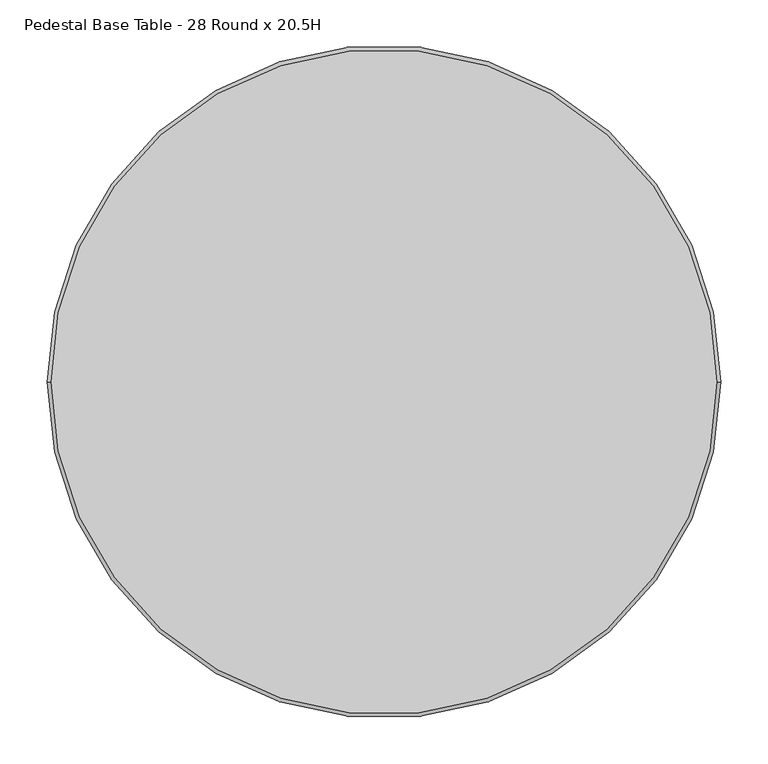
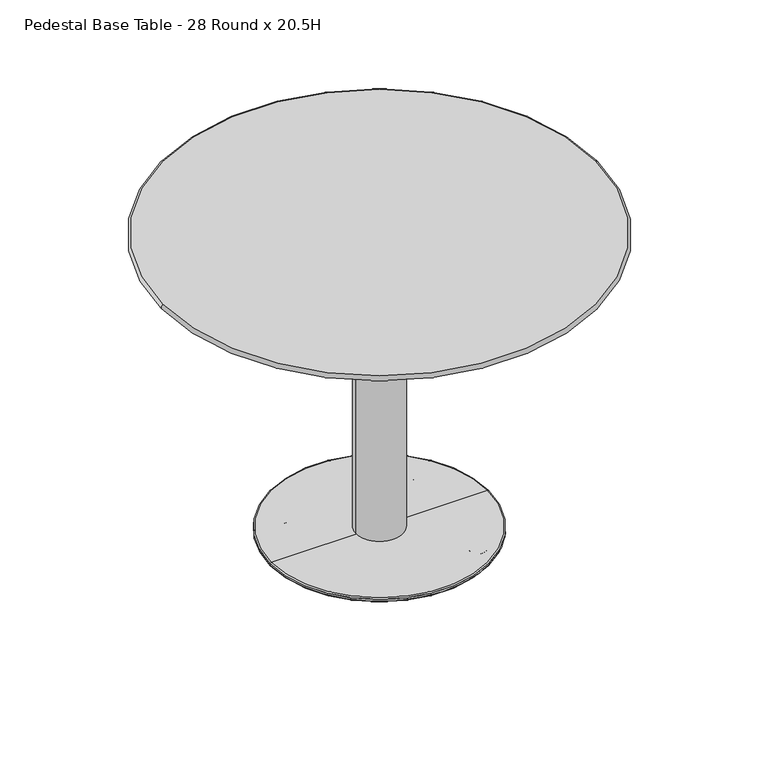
"""IFC4 building model written with IfcOpenShell, lengths in millimetres: furniture geometry, Integra - Coastal Collection - Coastal Metal Tables - Freestanding Table : Pedestal Base Table - 28 Round x 20.5H."""

from ifc_helpers import new_model, si_unit, point, frame, origin, origin_2d, place, context, project, spatial, circle_curve, ellipse_curve, trimmed, segment, composite_curve, outline, extrude, source, transform, mapped, element, save
from ifc_brep_helpers import plane_surface, cylinder_surface, revolved_surface, advanced_brep


def pedestal_base_table_28_round_x_20_5h_dd61f7c6(model_context):
    return source(origin(), model_context, "Body", "SolidModel", [
        advanced_brep(
        [(177.8, 0.0, 14.2991915), (-177.8, 0.0, 14.2991915), (-176.2125, 0.0, 15.8866915), (176.2125, 0.0, 15.8866915), (177.8, 0.0, 11.1241915), (-177.8, 0.0, 11.1241915), (176.2125, 0.0, 9.5366915), (-176.2125, 0.0, 9.5366915), (0.0, 0.0, 9.5366915), (0.0, 0.0, 15.8866915)],
        [
            (0, 1, circle_curve(frame((0.0, 0.0, 14.2991915), z_axis=(0.0, 0.0, 1.0), x_axis=(-1.0, 0.0, 0.0)), 177.8)),
            (1, 2, circle_curve(frame((-176.2125, 0.0, 14.2991915), z_axis=(0.0, 1.0, 0.0), x_axis=(1.0, 0.0, 0.0)), 1.5875)),
            (2, 3, circle_curve(frame((0.0, 0.0, 15.8866915), z_axis=(0.0, 0.0, -1.0), x_axis=(-1.0, 0.0, 0.0)), 176.2125)),
            (3, 0, circle_curve(frame((176.2125, 0.0, 14.2991915), z_axis=(0.0, 1.0, 0.0), x_axis=(-1.0, 0.0, 0.0)), 1.5875)),
            (1, 0, circle_curve(frame((0.0, 0.0, 14.2991915), z_axis=(0.0, 0.0, 1.0), x_axis=(-1.0, 0.0, 0.0)), 177.8)),
            (3, 2, circle_curve(frame((0.0, 0.0, 15.8866915), z_axis=(0.0, 0.0, -1.0), x_axis=(-1.0, 0.0, 0.0)), 176.2125)),
            (4, 5, circle_curve(frame((0.0, 0.0, 11.1241915), z_axis=(0.0, 0.0, 1.0), x_axis=(-1.0, 0.0, 0.0)), 177.8)),
            (5, 1),
            (0, 4),
            (5, 4, circle_curve(frame((0.0, 0.0, 11.1241915), z_axis=(0.0, 0.0, 1.0), x_axis=(-1.0, 0.0, 0.0)), 177.8)),
            (6, 7, circle_curve(frame((0.0, 0.0, 9.5366915), z_axis=(0.0, 0.0, 1.0), x_axis=(-1.0, 0.0, 0.0)), 176.2125)),
            (7, 5, circle_curve(frame((-176.2125, 0.0, 11.1241915), z_axis=(0.0, 1.0, 0.0), x_axis=(1.0, 0.0, 0.0)), 1.5875)),
            (4, 6, circle_curve(frame((176.2125, 0.0, 11.1241915), z_axis=(0.0, 1.0, 0.0), x_axis=(-1.0, 0.0, 0.0)), 1.5875)),
            (7, 6, circle_curve(frame((0.0, 0.0, 9.5366915), z_axis=(0.0, 0.0, 1.0), x_axis=(-1.0, 0.0, 0.0)), 176.2125)),
            (8, 7),
            (6, 8),
            (2, 9),
            (9, 3),
        ],
        [
            revolved_surface(trimmed(ellipse_curve(frame((-176.2125, 0.0, 14.2991915), z_axis=(0.0, -1.0, 0.0), x_axis=(1.0, 0.0, 0.0)), 1.5875, 1.5875), [point((-176.2125, 0.0, 15.8866915))], [point((-177.8, 0.0, 14.2991915))], True, "CARTESIAN"), (0.0, 0.0, 15.8866915), (0.0, 0.0, -1.0)),
            cylinder_surface(frame((0.0, 0.0, 15.8866915), z_axis=(0.0, 0.0, -1.0), x_axis=(-1.0, 0.0, 0.0)), 177.8),
            revolved_surface(trimmed(ellipse_curve(frame((-176.2125, 0.0, 11.1241915), z_axis=(0.0, -1.0, 0.0), x_axis=(1.0, 0.0, 0.0)), 1.5875, 1.5875), [point((-177.8, 0.0, 11.1241915))], [point((-176.2125, 0.0, 9.5366915))], True, "CARTESIAN"), (0.0, 0.0, 15.8866915), (0.0, 0.0, -1.0)),
            plane_surface(frame((0.0, 0.0, 9.5366915), z_axis=(0.0, 0.0, -1.0), x_axis=(-1.0, 0.0, 0.0))),
            plane_surface(frame((0.0, 0.0, 15.8866915), z_axis=(0.0, 0.0, 1.0), x_axis=(-1.0, 0.0, 0.0))),
        ],
        [
            (0, [[1, 2, 3, 4]]),
            (0, [[5, -4, 6, -2]]),
            (1, [[7, 8, -1, 9]]),
            (1, [[10, -9, -5, -8]]),
            (2, [[11, 12, -7, 13]]),
            (2, [[14, -13, -10, -12]]),
            (3, [[15, -11, 16]]),
            (3, [[-16, -14, -15]]),
            (4, [[-3, 17, 18]]),
            (4, [[-6, -18, -17]]),
        ],
    ),
        extrude(outline(composite_curve([segment(trimmed(circle_curve(origin_2d(), 38.1), [point((-38.1, 0.0))], [point((38.1, 0.0))], False, "CARTESIAN"), True, "CONTINUOUS"), segment(trimmed(circle_curve(origin_2d(), 38.1), [point((38.1, 0.0))], [point((-38.1, 0.0))], False, "CARTESIAN"), True, "CONTINUOUS")], self_intersect=False)), frame((0.0, 0.0, 15.8866915), z_axis=(0.0, 0.0, 1.0), x_axis=(1.0, 0.0, 0.0)), (0.0, 0.0, 1.0), 485.7633025),
        advanced_brep(
        [(-330.184015, 0.0, 507.9999939), (330.184015, 0.0, 507.9999939), (351.6380192, 0.0, 520.7), (-351.6380192, 0.0, 520.7), (353.3187402, 0.0, 513.1501969), (-353.3187402, 0.0, 513.1501969)],
        [
            (0, 1, circle_curve(frame((0.0, 0.0, 507.9999939), z_axis=(0.0, 0.0, -1.0), x_axis=(1.0, 0.0, 0.0)), 330.184015)),
            (1, 0, circle_curve(frame((0.0, 0.0, 507.9999939), z_axis=(0.0, 0.0, -1.0), x_axis=(-1.0, 0.0, 0.0)), 330.184015)),
            (2, 3, circle_curve(frame((0.0, 0.0, 520.7), z_axis=(0.0, 0.0, 1.0), x_axis=(1.0, 0.0, 0.0)), 351.6380192)),
            (3, 2, circle_curve(frame((0.0, 0.0, 520.7), z_axis=(0.0, 0.0, 1.0), x_axis=(-1.0, 0.0, 0.0)), 351.6380192)),
            (2, 4, circle_curve(frame((351.6380192, 0.0, 516.7380192), z_axis=(0.0, 1.0, 0.0), x_axis=(-1.0, 0.0, 0.0)), 3.9619808)),
            (4, 5, circle_curve(frame((0.0, 0.0, 513.1501969), z_axis=(0.0, 0.0, 1.0), x_axis=(1.0, 0.0, 0.0)), 353.3187402)),
            (5, 3, circle_curve(frame((-351.6380192, 0.0, 516.7380192), z_axis=(0.0, 1.0, 0.0), x_axis=(1.0, 0.0, 0.0)), 3.9619808)),
            (4, 1, circle_curve(frame((330.184015, 0.0, 562.5357186), z_axis=(0.0, 1.0, 0.0), x_axis=(-1.0, 0.0, 0.0)), 54.5357246)),
            (0, 5, circle_curve(frame((-330.184015, 0.0, 562.5357186), z_axis=(0.0, 1.0, 0.0), x_axis=(1.0, 0.0, 0.0)), 54.5357246)),
            (5, 4, circle_curve(frame((0.0, 0.0, 513.1501969), z_axis=(0.0, 0.0, 1.0), x_axis=(-1.0, 0.0, 0.0)), 353.3187402)),
        ],
        [
            plane_surface(frame((-25.4, 0.0, 507.9999939), z_axis=(0.0, 0.0, -1.0), x_axis=(0.0, 1.0, 0.0))),
            plane_surface(frame((-25.4, 0.0, 520.7), z_axis=(0.0, 0.0, 1.0), x_axis=(0.0, -1.0, 0.0))),
            revolved_surface(trimmed(ellipse_curve(frame((351.6380192, 0.0, 516.7380192), z_axis=(0.0, -1.0, 0.0), x_axis=(-1.0, 0.0, 0.0)), 3.9619808, 3.9619808), [point((353.3187402, 0.0, 513.1501969))], [point((351.6380192, 0.0, 520.7))], True, "CARTESIAN"), (0.0, 0.0, 520.7), (0.0, 0.0, 1.0)),
            revolved_surface(trimmed(ellipse_curve(frame((330.184015, 0.0, 562.5357186), z_axis=(0.0, -1.0, 0.0), x_axis=(-1.0, 0.0, 0.0)), 54.5357246, 54.5357246), [point((330.184015, 0.0, 507.9999939))], [point((353.3187402, 0.0, 513.1501969))], True, "CARTESIAN"), (0.0, 0.0, 520.7), (0.0, 0.0, 1.0)),
            revolved_surface(trimmed(ellipse_curve(frame((-351.6380192, 0.0, 516.7380192), z_axis=(0.0, 1.0, 0.0), x_axis=(1.0, 0.0, 0.0)), 3.9619808, 3.9619808), [point((-353.3187402, 0.0, 513.1501969))], [point((-351.6380192, 0.0, 520.7))], True, "CARTESIAN"), (0.0, 0.0, 520.7), (0.0, 0.0, 1.0)),
            revolved_surface(trimmed(ellipse_curve(frame((-330.184015, 0.0, 562.5357186), z_axis=(0.0, 1.0, 0.0), x_axis=(1.0, 0.0, 0.0)), 54.5357246, 54.5357246), [point((-330.184015, 0.0, 507.9999939))], [point((-353.3187402, 0.0, 513.1501969))], True, "CARTESIAN"), (0.0, 0.0, 520.7), (0.0, 0.0, 1.0)),
        ],
        [
            (0, [[1, 2]]),
            (1, [[3, 4]]),
            (2, [[-3, 5, 6, 7]]),
            (3, [[-6, 8, -1, 9]]),
            (4, [[-5, -4, -7, 10]]),
            (5, [[-8, -10, -9, -2]]),
        ],
    ),
        extrude(outline(composite_curve([segment(trimmed(circle_curve(origin_2d(), 330.2), [point((-330.2, 0.0))], [point((330.2, 0.0))], False, "CARTESIAN"), True, "CONTINUOUS"), segment(trimmed(circle_curve(origin_2d(), 330.2), [point((330.2, 0.0))], [point((-330.2, 0.0))], False, "CARTESIAN"), True, "CONTINUOUS")], self_intersect=False)), frame((0.0, 0.0, 501.6499939), z_axis=(0.0, 0.0, 1.0), x_axis=(1.0, 0.0, 0.0)), (0.0, 0.0, 1.0), 6.35),
        advanced_brep(
        [(-117.2443939, 101.6, 9.5239742), (-85.9556061, 101.6, 9.5239742), (-101.6, 101.6, 9.5239742), (-107.7193939, 101.6, -0.0010258), (-95.4806061, 101.6, -0.0010258), (-101.6, 101.6, -0.0010258)],
        [
            (0, 1, circle_curve(frame((-101.6, 101.6, 9.5239742), z_axis=(0.0, 0.0, 1.0), x_axis=(1.0, 0.0, 0.0)), 15.6443939)),
            (1, 2),
            (2, 0),
            (1, 0, circle_curve(frame((-101.6, 101.6, 9.5239742), z_axis=(0.0, 0.0, 1.0), x_axis=(1.0, 0.0, 0.0)), 15.6443939)),
            (3, 4, circle_curve(frame((-101.6, 101.6, -0.0010258), z_axis=(0.0, 0.0, 1.0), x_axis=(1.0, 0.0, 0.0)), 6.1193939)),
            (4, 1, circle_curve(frame((-95.4806061, 101.6, 9.5239742), z_axis=(0.0, -1.0, 0.0), x_axis=(1.0, 0.0, 0.0)), 9.525)),
            (0, 3, circle_curve(frame((-107.7193939, 101.6, 9.5239742), z_axis=(0.0, -1.0, 0.0), x_axis=(-1.0, 0.0, 0.0)), 9.525)),
            (4, 3, circle_curve(frame((-101.6, 101.6, -0.0010258), z_axis=(0.0, 0.0, 1.0), x_axis=(1.0, 0.0, 0.0)), 6.1193939)),
            (5, 4),
            (3, 5),
        ],
        [
            plane_surface(frame((-101.6, 101.6, 9.5239742), z_axis=(0.0, 0.0, 1.0), x_axis=(1.0, 0.0, 0.0))),
            revolved_surface(trimmed(ellipse_curve(frame((-95.4806061, 101.6, 9.5239742), z_axis=(0.0, 1.0, 0.0), x_axis=(1.0, 0.0, 0.0)), 9.525, 9.525), [point((-85.9556061, 101.6, 9.5239742))], [point((-95.4806061, 101.6, -0.0010258))], True, "CARTESIAN"), (-101.6, 101.6, -0.0010258), (0.0, 0.0, -1.0)),
            plane_surface(frame((-101.6, 101.6, -0.0010258), z_axis=(0.0, 0.0, -1.0), x_axis=(1.0, 0.0, 0.0))),
        ],
        [
            (0, [[1, 2, 3]]),
            (0, [[4, -3, -2]]),
            (1, [[5, 6, -1, 7]]),
            (1, [[8, -7, -4, -6]]),
            (2, [[9, -5, 10]]),
            (2, [[-10, -8, -9]]),
        ],
    ),
        advanced_brep(
        [(-101.6, -101.6, 9.5239742), (-85.9556061, -101.6, 9.5239742), (-117.2443939, -101.6, 9.5239742), (-95.4806061, -101.6, -0.0010258), (-107.7193939, -101.6, -0.0010258), (-101.6, -101.6, -0.0010258)],
        [
            (0, 1),
            (1, 2, circle_curve(frame((-101.6, -101.6, 9.5239742), z_axis=(0.0, 0.0, 1.0), x_axis=(1.0, 0.0, 0.0)), 15.6443939)),
            (2, 0),
            (2, 1, circle_curve(frame((-101.6, -101.6, 9.5239742), z_axis=(0.0, 0.0, 1.0), x_axis=(1.0, 0.0, 0.0)), 15.6443939)),
            (1, 3, circle_curve(frame((-95.4806061, -101.6, 9.5239742), z_axis=(0.0, 1.0, 0.0), x_axis=(1.0, 0.0, 0.0)), 9.525)),
            (3, 4, circle_curve(frame((-101.6, -101.6, -0.0010258), z_axis=(0.0, 0.0, 1.0), x_axis=(1.0, 0.0, 0.0)), 6.1193939)),
            (4, 2, circle_curve(frame((-107.7193939, -101.6, 9.5239742), z_axis=(0.0, 1.0, 0.0), x_axis=(-1.0, 0.0, 0.0)), 9.525)),
            (4, 3, circle_curve(frame((-101.6, -101.6, -0.0010258), z_axis=(0.0, 0.0, 1.0), x_axis=(1.0, 0.0, 0.0)), 6.1193939)),
            (3, 5),
            (5, 4),
        ],
        [
            plane_surface(frame((-101.6, -101.6, 9.5239742), z_axis=(0.0, 0.0, 1.0), x_axis=(1.0, 0.0, 0.0))),
            revolved_surface(trimmed(ellipse_curve(frame((-95.4806061, -101.6, 9.5239742), z_axis=(0.0, -1.0, 0.0), x_axis=(1.0, 0.0, 0.0)), 9.525, 9.525), [point((-95.4806061, -101.6, -0.0010258))], [point((-85.9556061, -101.6, 9.5239742))], True, "CARTESIAN"), (-101.6, -101.6, -0.0010258), (0.0, 0.0, 1.0)),
            plane_surface(frame((-101.6, -101.6, -0.0010258), z_axis=(0.0, 0.0, -1.0), x_axis=(1.0, 0.0, 0.0))),
        ],
        [
            (0, [[1, 2, 3]]),
            (0, [[-3, 4, -1]]),
            (1, [[-2, 5, 6, 7]]),
            (1, [[-4, -7, 8, -5]]),
            (2, [[-6, 9, 10]]),
            (2, [[-8, -10, -9]]),
        ],
    ),
        advanced_brep(
        [(101.6, 101.6, 9.5239742), (85.9556061, 101.6, 9.5239742), (117.2443939, 101.6, 9.5239742), (95.4806061, 101.6, -0.0010258), (107.7193939, 101.6, -0.0010258), (101.6, 101.6, -0.0010258)],
        [
            (0, 1),
            (1, 2, circle_curve(frame((101.6, 101.6, 9.5239742), z_axis=(0.0, 0.0, 1.0), x_axis=(-1.0, 0.0, 0.0)), 15.6443939)),
            (2, 0),
            (2, 1, circle_curve(frame((101.6, 101.6, 9.5239742), z_axis=(0.0, 0.0, 1.0), x_axis=(-1.0, 0.0, 0.0)), 15.6443939)),
            (1, 3, circle_curve(frame((95.4806061, 101.6, 9.5239742), z_axis=(0.0, -1.0, 0.0), x_axis=(-1.0, 0.0, 0.0)), 9.525)),
            (3, 4, circle_curve(frame((101.6, 101.6, -0.0010258), z_axis=(0.0, 0.0, 1.0), x_axis=(-1.0, 0.0, 0.0)), 6.1193939)),
            (4, 2, circle_curve(frame((107.7193939, 101.6, 9.5239742), z_axis=(0.0, -1.0, 0.0), x_axis=(1.0, 0.0, 0.0)), 9.525)),
            (4, 3, circle_curve(frame((101.6, 101.6, -0.0010258), z_axis=(0.0, 0.0, 1.0), x_axis=(-1.0, 0.0, 0.0)), 6.1193939)),
            (3, 5),
            (5, 4),
        ],
        [
            plane_surface(frame((101.6, 101.6, 9.5239742), z_axis=(0.0, 0.0, 1.0), x_axis=(-1.0, 0.0, 0.0))),
            revolved_surface(trimmed(ellipse_curve(frame((95.4806061, 101.6, 9.5239742), z_axis=(0.0, 1.0, 0.0), x_axis=(-1.0, 0.0, 0.0)), 9.525, 9.525), [point((95.4806061, 101.6, -0.0010258))], [point((85.9556061, 101.6, 9.5239742))], True, "CARTESIAN"), (101.6, 101.6, -0.0010258), (0.0, 0.0, 1.0)),
            plane_surface(frame((101.6, 101.6, -0.0010258), z_axis=(0.0, 0.0, -1.0), x_axis=(-1.0, 0.0, 0.0))),
        ],
        [
            (0, [[1, 2, 3]]),
            (0, [[-3, 4, -1]]),
            (1, [[-2, 5, 6, 7]]),
            (1, [[-4, -7, 8, -5]]),
            (2, [[-6, 9, 10]]),
            (2, [[-8, -10, -9]]),
        ],
    ),
        advanced_brep(
        [(117.2443939, -101.6, 9.5239742), (85.9556061, -101.6, 9.5239742), (101.6, -101.6, 9.5239742), (107.7193939, -101.6, -0.0010258), (95.4806061, -101.6, -0.0010258), (101.6, -101.6, -0.0010258)],
        [
            (0, 1, circle_curve(frame((101.6, -101.6, 9.5239742), z_axis=(0.0, 0.0, 1.0), x_axis=(-1.0, 0.0, 0.0)), 15.6443939)),
            (1, 2),
            (2, 0),
            (1, 0, circle_curve(frame((101.6, -101.6, 9.5239742), z_axis=(0.0, 0.0, 1.0), x_axis=(-1.0, 0.0, 0.0)), 15.6443939)),
            (3, 4, circle_curve(frame((101.6, -101.6, -0.0010258), z_axis=(0.0, 0.0, 1.0), x_axis=(-1.0, 0.0, 0.0)), 6.1193939)),
            (4, 1, circle_curve(frame((95.4806061, -101.6, 9.5239742), z_axis=(0.0, 1.0, 0.0), x_axis=(-1.0, 0.0, 0.0)), 9.525)),
            (0, 3, circle_curve(frame((107.7193939, -101.6, 9.5239742), z_axis=(0.0, 1.0, 0.0), x_axis=(1.0, 0.0, 0.0)), 9.525)),
            (4, 3, circle_curve(frame((101.6, -101.6, -0.0010258), z_axis=(0.0, 0.0, 1.0), x_axis=(-1.0, 0.0, 0.0)), 6.1193939)),
            (5, 4),
            (3, 5),
        ],
        [
            plane_surface(frame((101.6, -101.6, 9.5239742), z_axis=(0.0, 0.0, 1.0), x_axis=(-1.0, 0.0, 0.0))),
            revolved_surface(trimmed(ellipse_curve(frame((95.4806061, -101.6, 9.5239742), z_axis=(0.0, -1.0, 0.0), x_axis=(-1.0, 0.0, 0.0)), 9.525, 9.525), [point((85.9556061, -101.6, 9.5239742))], [point((95.4806061, -101.6, -0.0010258))], True, "CARTESIAN"), (101.6, -101.6, -0.0010258), (0.0, 0.0, -1.0)),
            plane_surface(frame((101.6, -101.6, -0.0010258), z_axis=(0.0, 0.0, -1.0), x_axis=(-1.0, 0.0, 0.0))),
        ],
        [
            (0, [[1, 2, 3]]),
            (0, [[4, -3, -2]]),
            (1, [[5, 6, -1, 7]]),
            (1, [[8, -7, -4, -6]]),
            (2, [[9, -5, 10]]),
            (2, [[-10, -8, -9]]),
        ],
    ),
    ])


if __name__ == "__main__":
    model = new_model("IFC4")
    model_context = context("Model", 3, world=origin())
    ifc_project = project(units=[si_unit("LENGTHUNIT", "METRE", prefix="MILLI")], contexts=[model_context])
    site = spatial("IfcSite", under=ifc_project)
    building = spatial("IfcBuilding", under=site)
    placement = place(None, origin())
    pedestal_base_table_28_round_x_20_5h_shape = pedestal_base_table_28_round_x_20_5h_dd61f7c6(model_context)
    element("IfcFurniture", 1, ObjectType="Integra - Coastal Collection - Coastal Metal Tables - Freestanding Table : Pedestal Base Table - 28 Round x 20.5H", at=placement, inside=building, context=model_context, shape_type="MappedRepresentation", body=[
        mapped(pedestal_base_table_28_round_x_20_5h_shape, transform((0.0, 0.0, 0.0), x_axis=(1.0, 0.0, 0.0), y_axis=(0.0, 1.0, 0.0), z_axis=(0.0, 0.0, 1.0))),
    ])
    save(model, "model.ifc")
